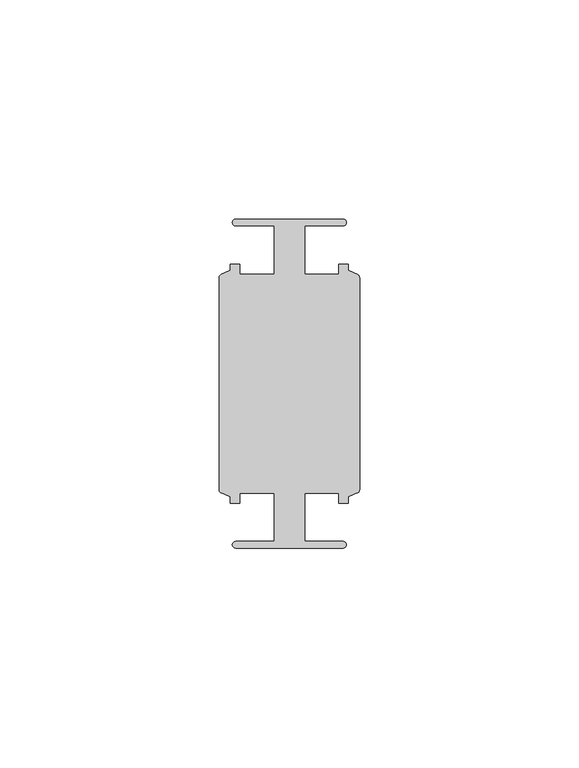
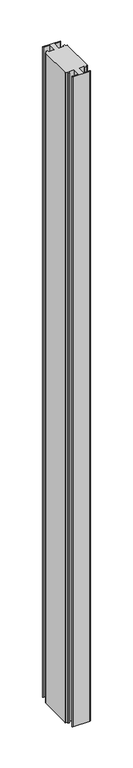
"""IFC4 building model written with IfcOpenShell, lengths in millimetres: member geometry, Прямоугольный импост : 4-AMG-2-Профиль 26Х75 Средний."""

from ifc_helpers import new_model, si_unit, point, frame, frame_2d, origin, place, context, project, spatial, polyline, circle_curve, trimmed, segment, composite_curve, outline, extrude, source, transform, mapped, element, save


def member_ee2b92cd(model_context):
    return source(origin(), model_context, "Body", "SweptSolid", [
        extrude(outline(composite_curve([segment(trimmed(circle_curve(frame_2d((12.2876562, 36.75)), 0.75), [point((12.2876562, 37.5))], [point((12.2876562, 36.0))], False, "CARTESIAN"), True, "CONTINUOUS"), segment(polyline([(12.2876562, 36.0), (3.5376562, 36.0), (3.5376562, 25.0), (11.2593767, 25.0), (11.2593767, 27.25), (13.4846403, 27.25), (13.4846403, 25.836597), (15.5572539, 24.9333875)]), True, "CONTINUOUS"), segment(trimmed(circle_curve(frame_2d((15.2376562, 24.2)), 0.8), [point((15.5572539, 24.9333875))], [point((16.0376562, 24.2))], False, "CARTESIAN"), True, "CONTINUOUS"), segment(polyline([(16.0376562, 24.2), (16.0376562, -24.2)]), True, "CONTINUOUS"), segment(trimmed(circle_curve(frame_2d((15.2376562, -24.2)), 0.8), [point((16.0376562, -24.2))], [point((15.5572539, -24.9333875))], False, "CARTESIAN"), True, "CONTINUOUS"), segment(polyline([(15.5572539, -24.9333875), (13.4846403, -25.836597), (13.4846403, -27.25), (11.2593767, -27.25), (11.2593767, -24.9914758), (3.5376562, -24.9914758), (3.5376562, -36.0), (12.2876562, -36.0)]), True, "CONTINUOUS"), segment(trimmed(circle_curve(frame_2d((12.2876562, -36.75)), 0.75), [point((12.2876562, -36.0))], [point((12.2876562, -37.5))], False, "CARTESIAN"), True, "CONTINUOUS"), segment(polyline([(12.2876562, -37.5), (-12.2123438, -37.5)]), True, "CONTINUOUS"), segment(trimmed(circle_curve(frame_2d((-12.2123438, -36.75)), 0.75), [point((-12.2123438, -37.5))], [point((-12.2123438, -36.0))], False, "CARTESIAN"), True, "CONTINUOUS"), segment(polyline([(-12.2123438, -36.0), (-3.4623438, -36.0), (-3.4623438, -24.9913353), (-11.2593767, -24.9913353), (-11.2593767, -27.25), (-13.4093278, -27.25), (-13.4093278, -25.836597), (-15.4819415, -24.9333875)]), True, "CONTINUOUS"), segment(trimmed(circle_curve(frame_2d((-15.1623438, -24.2)), 0.8), [point((-15.4819415, -24.9333875))], [point((-15.9623438, -24.2))], False, "CARTESIAN"), True, "CONTINUOUS"), segment(polyline([(-15.9623438, -24.2), (-15.9623438, 24.2)]), True, "CONTINUOUS"), segment(trimmed(circle_curve(frame_2d((-15.1623438, 24.2)), 0.8), [point((-15.9623438, 24.2))], [point((-15.4819415, 24.9333875))], False, "CARTESIAN"), True, "CONTINUOUS"), segment(polyline([(-15.4819415, 24.9333875), (-13.4093278, 25.836597), (-13.4093278, 27.25), (-11.2593767, 27.25), (-11.2593767, 25.0), (-3.4623438, 25.0), (-3.4623438, 36.0), (-12.2123438, 36.0)]), True, "CONTINUOUS"), segment(trimmed(circle_curve(frame_2d((-12.2123438, 36.75)), 0.75), [point((-12.2123438, 36.0))], [point((-12.2123438, 37.5))], False, "CARTESIAN"), True, "CONTINUOUS"), segment(polyline([(-12.2123438, 37.5), (12.2876562, 37.5)]), True, "CONTINUOUS")], self_intersect=False)), frame((0.0, 0.0, -984.3988789), z_axis=(0.0, 0.0, 1.0), x_axis=(1.0, 0.0, 0.0)), (0.0, 0.0, 1.0), 984.3988789),
    ])


if __name__ == "__main__":
    model = new_model("IFC4")
    model_context = context("Model", 3, world=origin())
    ifc_project = project(units=[si_unit("LENGTHUNIT", "METRE", prefix="MILLI")], contexts=[model_context])
    site = spatial("IfcSite", under=ifc_project)
    building = spatial("IfcBuilding", under=site)
    placement = place(None, origin())
    member_shape = member_ee2b92cd(model_context)
    element("IfcMember", 1, ObjectType="Прямоугольный импост : 4-AMG-2-Профиль 26Х75 Средний", at=placement, inside=building, context=model_context, shape_type="MappedRepresentation", body=[
        mapped(member_shape, transform((0.0, 0.0, 0.0), x_axis=(1.0, 0.0, 0.0), y_axis=(0.0, 1.0, 0.0), z_axis=(0.0, 0.0, 1.0))),
    ])
    save(model, "model.ifc")
